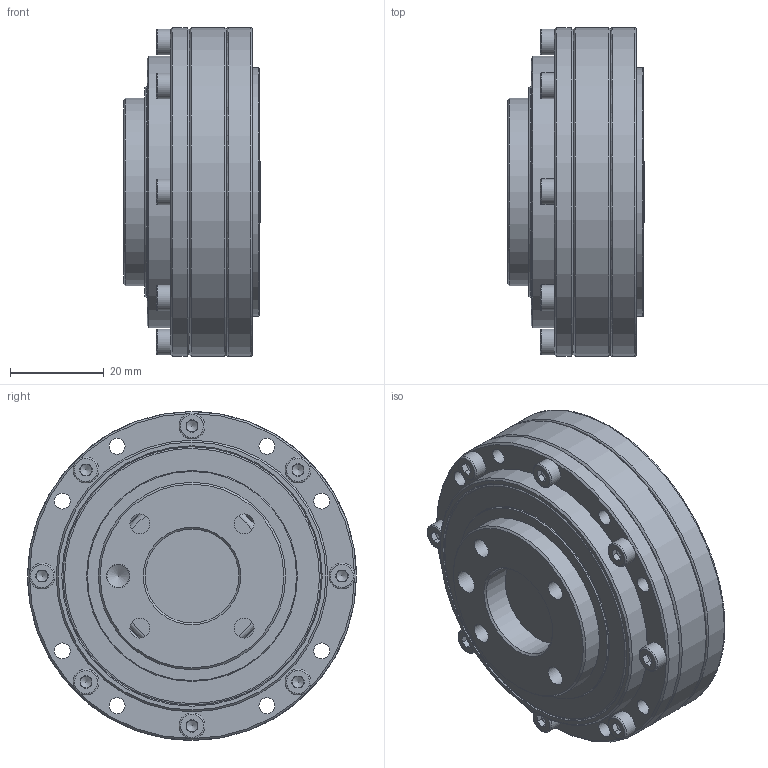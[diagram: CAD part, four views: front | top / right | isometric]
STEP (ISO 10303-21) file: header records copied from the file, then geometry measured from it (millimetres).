
FILE_DESCRIPTION (( 'STEP AP203' ), '1' );
FILE_NAME ('LCD-14-XXX-C-I-S0.STEP', '2025-01-20T02:17:52', ( '' ), ( '' ), 'SwSTEP 2.0', 'SolidWorks 2023', '' );
FILE_SCHEMA (( 'CONFIG_CONTROL_DESIGN' ));
Length unit declared in the file: millimetre
Products named in the file (1): LCD-14-XXX-C-I-S0
Bounding box: 29.2 x 70.2 x 70.2 mm (x, y, z)
Volume: 71572.8 mm3; surface area: 50468.9 mm2
Topology: 32 solids, 32 shells, 868 faces, 2072 edges, 1305 vertices
Faces by surface type: plane 440, cylinder 220, bspline 110, cone 98
Full cylindrical faces by diameter (mm): 1.6 x4, 2 x4, 2.05 x2, 2.4 x4, 2.5 x17, 3 x17, 3.3 x2, 3.4 x36, 3.5 x9, 3.8 x4, 4.2 x4, 4.4 x2, 4.8 x1, 5 x1, 5.5 x17, 11 x2, 13 x2, 20 x1, 23 x1, 23.5 x2, 24.1 x1, 25.07 x1, 25.5 x1, 26 x1, 26.5 x1, 26.63 x2, 27.6 x1, 29.5 x1, 31.4 x1, 32.4 x2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
Entity records: 29557 total; most frequent: CARTESIAN_POINT 11259, DIRECTION 3764, ORIENTED_EDGE 3308, EDGE_CURVE 1654, AXIS2_PLACEMENT_3D 1555, EDGE_LOOP 1386, VERTEX_POINT 1206, FACE_OUTER_BOUND 1082
